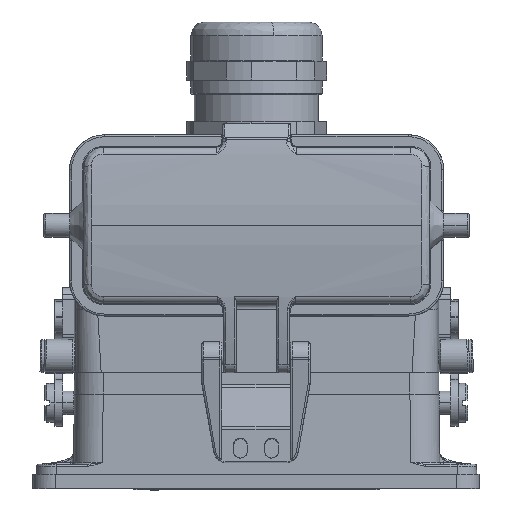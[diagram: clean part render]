
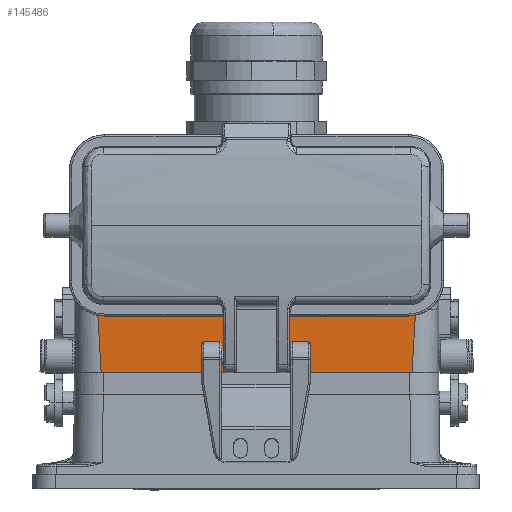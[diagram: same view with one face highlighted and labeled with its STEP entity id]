
A CAD part, top view. The second image highlights one B-rep face of the part: STEP entity #145486.
In plain terms, the highlighted planar face has unit normal (0, 0, 1) as drawn and (0, -1, 0) by its records, which use the part's own axes.
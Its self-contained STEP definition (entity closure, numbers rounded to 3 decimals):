
#21 = CARTESIAN_POINT ( 'NONE',  ( 67.597, 17.399, 69.588 ) ) ;
#1802 = DIRECTION ( 'NONE',  ( -1., 0., 0. ) ) ;
#3169 = CARTESIAN_POINT ( 'NONE',  ( -14.094, 17.399, 69.588 ) ) ;
#4999 = CARTESIAN_POINT ( 'NONE',  ( -14.017, 17.399, 67.83 ) ) ;
#5934 = CARTESIAN_POINT ( 'NONE',  ( -13.708, 17.399, 62.098 ) ) ;
#6031 = B_SPLINE_CURVE_WITH_KNOTS ( 'NONE', 3,
 ( #3169, #173603, #4999, #119510, #33834, #105529, #118593, #89733, #90651, #88830, #146509, #18999, #162324, #5934, #62711, #132520, #61757, #91575, #148348, #175456, #25426, #164203, #96185, #180952, #151110, #36651, #108309, #179117, #153878, #152029, #39384, #11480, #78535, #152940 ),
 .UNSPECIFIED., .F., .F.,
 ( 4, 1, 1, 1, 1, 1, 2, 2, 1, 1, 1, 1, 1, 1, 1, 2, 2, 1, 1, 1, 1, 1, 1, 2, 2, 4 ),
 ( 0., 0.125, 0.188, 0.219, 0.234, 0.242, 0.246, 0.25, 0.375, 0.438, 0.469, 0.484, 0.492, 0.496, 0.498, 0.499, 0.5, 0.625, 0.688, 0.719, 0.734, 0.742, 0.746, 0.748, 0.75, 1. ),
 .UNSPECIFIED. ) ;
#8083 = CARTESIAN_POINT ( 'NONE',  ( -46.498, 17.399, 53.299 ) ) ;
#11480 = CARTESIAN_POINT ( 'NONE',  ( -13.309, 17.399, 55.844 ) ) ;
#15069 = ORIENTED_EDGE ( 'NONE', *, *, #140473, .T. ) ;
#16890 = VECTOR ( 'NONE', #184290, 1000. ) ;
#18999 = CARTESIAN_POINT ( 'NONE',  ( -13.819, 17.399, 63.96 ) ) ;
#21462 = ORIENTED_EDGE ( 'NONE', *, *, #23941, .T. ) ;
#21806 = CARTESIAN_POINT ( 'NONE',  ( 66.641, 17.399, 53.299 ) ) ;
#22992 = DIRECTION ( 'NONE',  ( 0., 0., -1. ) ) ;
#23941 = EDGE_CURVE ( 'NONE', #108270, #152326, #6031, .T. ) ;
#25426 = CARTESIAN_POINT ( 'NONE',  ( -13.668, 17.399, 61.445 ) ) ;
#26334 = ORIENTED_EDGE ( 'NONE', *, *, #38033, .T. ) ;
#33834 = CARTESIAN_POINT ( 'NONE',  ( -13.932, 17.399, 66.081 ) ) ;
#36651 = CARTESIAN_POINT ( 'NONE',  ( -13.431, 17.399, 57.736 ) ) ;
#38033 = EDGE_CURVE ( 'NONE', #152326, #167122, #170292, .T. ) ;
#38280 = CARTESIAN_POINT ( 'NONE',  ( 67.457, 17.399, 66.043 ) ) ;
#39384 = CARTESIAN_POINT ( 'NONE',  ( -13.408, 17.399, 57.381 ) ) ;
#51906 = ORIENTED_EDGE ( 'NONE', *, *, #138299, .F. ) ;
#61757 = CARTESIAN_POINT ( 'NONE',  ( -13.673, 17.399, 61.524 ) ) ;
#62711 = CARTESIAN_POINT ( 'NONE',  ( -13.688, 17.399, 61.771 ) ) ;
#67632 = VERTEX_POINT ( 'NONE', #21 ) ;
#76377 = AXIS2_PLACEMENT_3D ( 'NONE', #8083, #176639, #22992 ) ;
#77857 = EDGE_LOOP ( 'NONE', ( #15069, #21462, #26334, #51906 ) ) ;
#78535 = CARTESIAN_POINT ( 'NONE',  ( -13.219, 17.399, 54.488 ) ) ;
#80157 = B_SPLINE_CURVE_WITH_KNOTS ( 'NONE', 3,
 ( #122093, #38280, #164920, #95073, #151831 ),
 .UNSPECIFIED., .F., .F.,
 ( 4, 1, 4 ),
 ( 0., 0.652, 1. ),
 .UNSPECIFIED. ) ;
#88830 = CARTESIAN_POINT ( 'NONE',  ( -13.904, 17.399, 65.532 ) ) ;
#89733 = CARTESIAN_POINT ( 'NONE',  ( -13.907, 17.399, 65.594 ) ) ;
#90651 = CARTESIAN_POINT ( 'NONE',  ( -13.905, 17.399, 65.554 ) ) ;
#91575 = CARTESIAN_POINT ( 'NONE',  ( -13.67, 17.399, 61.482 ) ) ;
#95073 = CARTESIAN_POINT ( 'NONE',  ( 66.764, 17.399, 55.187 ) ) ;
#96185 = CARTESIAN_POINT ( 'NONE',  ( -13.58, 17.399, 60.042 ) ) ;
#98575 = CARTESIAN_POINT ( 'NONE',  ( 13.502, 17.399, 53.299 ) ) ;
#102349 = LINE ( 'NONE', #157313, #133885 ) ;
#105529 = CARTESIAN_POINT ( 'NONE',  ( -13.918, 17.399, 65.796 ) ) ;
#108270 = VERTEX_POINT ( 'NONE', #171527 ) ;
#108309 = CARTESIAN_POINT ( 'NONE',  ( -13.419, 17.399, 57.554 ) ) ;
#118593 = CARTESIAN_POINT ( 'NONE',  ( -13.91, 17.399, 65.655 ) ) ;
#119510 = CARTESIAN_POINT ( 'NONE',  ( -13.961, 17.399, 66.656 ) ) ;
#119796 = FACE_OUTER_BOUND ( 'NONE', #77857, .T. ) ;
#122093 = CARTESIAN_POINT ( 'NONE',  ( 67.597, 17.399, 69.588 ) ) ;
#132520 = CARTESIAN_POINT ( 'NONE',  ( -13.678, 17.399, 61.607 ) ) ;
#133885 = VECTOR ( 'NONE', #1802, 1000. ) ;
#138299 = EDGE_CURVE ( 'NONE', #67632, #167122, #80157, .T. ) ;
#140473 = EDGE_CURVE ( 'NONE', #67632, #108270, #102349, .T. ) ;
#145486 = ADVANCED_FACE ( 'NONE', ( #119796 ), #165391, .T. ) ;
#146509 = CARTESIAN_POINT ( 'NONE',  ( -13.872, 17.399, 64.917 ) ) ;
#148348 = CARTESIAN_POINT ( 'NONE',  ( -13.669, 17.399, 61.464 ) ) ;
#151110 = CARTESIAN_POINT ( 'NONE',  ( -13.454, 17.399, 58.094 ) ) ;
#151831 = CARTESIAN_POINT ( 'NONE',  ( 66.641, 17.399, 53.299 ) ) ;
#152029 = CARTESIAN_POINT ( 'NONE',  ( -13.409, 17.399, 57.396 ) ) ;
#152326 = VERTEX_POINT ( 'NONE', #163994 ) ;
#152940 = CARTESIAN_POINT ( 'NONE',  ( -13.137, 17.399, 53.299 ) ) ;
#153878 = CARTESIAN_POINT ( 'NONE',  ( -13.411, 17.399, 57.422 ) ) ;
#157313 = CARTESIAN_POINT ( 'NONE',  ( -46.498, 17.399, 69.588 ) ) ;
#162324 = CARTESIAN_POINT ( 'NONE',  ( -13.747, 17.399, 62.737 ) ) ;
#163994 = CARTESIAN_POINT ( 'NONE',  ( -13.137, 17.399, 53.299 ) ) ;
#164203 = CARTESIAN_POINT ( 'NONE',  ( -13.636, 17.399, 60.932 ) ) ;
#164920 = CARTESIAN_POINT ( 'NONE',  ( 67.129, 17.399, 60.613 ) ) ;
#165391 = PLANE ( 'NONE',  #76377 ) ;
#167122 = VERTEX_POINT ( 'NONE', #21806 ) ;
#170292 = LINE ( 'NONE', #98575, #16890 ) ;
#171527 = CARTESIAN_POINT ( 'NONE',  ( -14.094, 17.399, 69.588 ) ) ;
#173603 = CARTESIAN_POINT ( 'NONE',  ( -14.064, 17.399, 68.874 ) ) ;
#175456 = CARTESIAN_POINT ( 'NONE',  ( -13.668, 17.399, 61.453 ) ) ;
#176639 = DIRECTION ( 'NONE',  ( 0., -1., 0. ) ) ;
#179117 = CARTESIAN_POINT ( 'NONE',  ( -13.413, 17.399, 57.462 ) ) ;
#180952 = CARTESIAN_POINT ( 'NONE',  ( -13.499, 17.399, 58.78 ) ) ;
#184290 = DIRECTION ( 'NONE',  ( 1., 0., 0. ) ) ;
